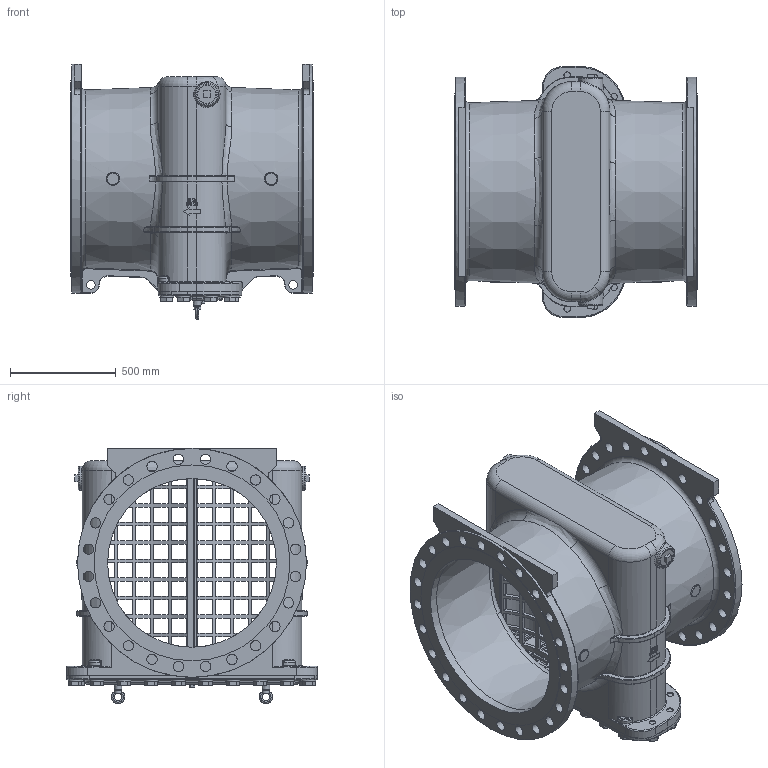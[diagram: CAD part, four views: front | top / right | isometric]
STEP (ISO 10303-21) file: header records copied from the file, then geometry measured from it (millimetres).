
FILE_DESCRIPTION(/* description */ (''),/* implementation_level */ '2;1');
FILE_NAME(/* name */ 'G:\Doc_Liberes\SymbolesCAD\Modeles_3D\FichierSTP\Aqua\Aqua90501\FAB800-25.stp',/* time_stamp */ '2019-03-08T10:28:43+01:00',/* author */ ('sylvain'),/* organization */ (''),/* preprocessor_version */ 'ST-DEVELOPER v17',/* originating_system */ 'Autodesk Inventor 2018',/* authorisation */ '');
FILE_SCHEMA (('AUTOMOTIVE_DESIGN { 1 0 10303 214 3 1 1 }'));
Products named in the file (10): *CTA90501G18003-KCO; 205243-01B; 58910-40; 73240-25; 57576-02; 57576-07; ISO 4144 Bouchons mâles P1 3; DIN 580 - M16 x 1.5; ISO 4018 - M36 x 65; ISO 7089 - 36 - 140 HV
Assembly tree (50 placements, depth 3):
  *CTA90501G18003-KCO
    205243-01B
    58910-40
    73240-25  x2
    57576-02
      57576-07
    ISO 4144 Bouchons mâles P1 3  x2
    ISO 4018 - M36 x 65  x20
    ISO 7089 - 36 - 140 HV  x20
    DIN 580 - M16 x 1.5  x2
Bounding box: 1150 x 1190 x 1209.5 mm (x, y, z)
Volume: 145909024.7 mm3; surface area: 13739133.9 mm2
Topology: 50 solids, 50 shells, 3085 faces, 7939 edges, 4907 vertices
Faces by surface type: plane 1301, cylinder 707, bspline 448, torus 333, cone 204, sphere 92
Full cylindrical faces by diameter (mm): 1.6 x1, 2.3 x1, 6.92 x1, 14 x3, 15 x2, 16 x2, 18.263 x1, 20.955 x1, 31.67 x20, 36 x40, 37 x20, 40 x2, 49 x48, 66 x20, 81 x2, 84.93 x2, 800 x2, 928 x2, 1085 x2
Entity records: 104043 total; most frequent: CARTESIAN_POINT 46265, ORIENTED_EDGE 12220, DIRECTION 11589, EDGE_CURVE 6110, AXIS2_PLACEMENT_3D 4488, VERTEX_POINT 3812, EDGE_LOOP 2768, LINE 2613
